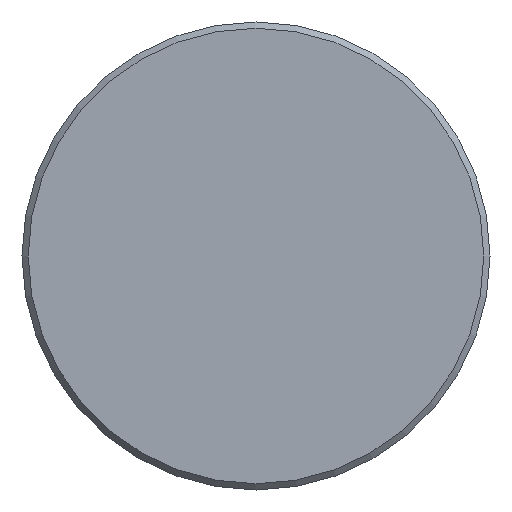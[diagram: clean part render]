
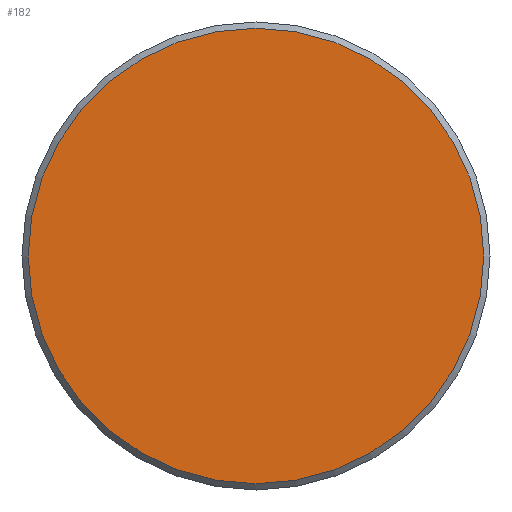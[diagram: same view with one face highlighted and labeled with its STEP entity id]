
A CAD part, front view. The second image highlights one B-rep face of the part: STEP entity #182.
In plain terms, the highlighted planar face has unit normal (0, -1, 0).
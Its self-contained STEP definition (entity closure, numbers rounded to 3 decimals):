
#182 = ADVANCED_FACE( '', ( #362 ), #363, .F. );
#362 = FACE_OUTER_BOUND( '', #558, .T. );
#363 = PLANE( '', #559 );
#558 = EDGE_LOOP( '', ( #843 ) );
#559 = AXIS2_PLACEMENT_3D( '', #844, #845, #846 );
#843 = ORIENTED_EDGE( '', *, *, #1147, .T. );
#844 = CARTESIAN_POINT( '', ( 29.2, 0., 0. ) );
#845 = DIRECTION( '', ( 0., 1., 0. ) );
#846 = DIRECTION( '', ( 0., 0., 1. ) );
#1147 = EDGE_CURVE( '', #1342, #1342, #1343, .T. );
#1342 = VERTEX_POINT( '', #1709 );
#1343 = CIRCLE( '', #1710, 29.2 );
#1709 = CARTESIAN_POINT( '', ( 0., 0., -29.2 ) );
#1710 = AXIS2_PLACEMENT_3D( '', #2055, #2056, #2057 );
#2055 = CARTESIAN_POINT( '', ( 0., 0., 0. ) );
#2056 = DIRECTION( '', ( 0., -1., 0. ) );
#2057 = DIRECTION( '', ( 0., 0., -1. ) );
